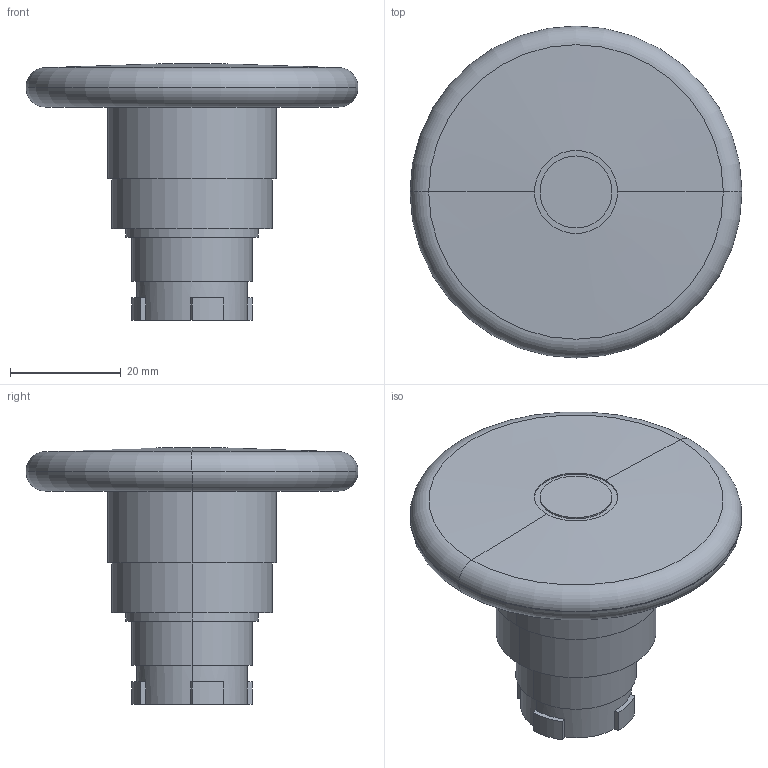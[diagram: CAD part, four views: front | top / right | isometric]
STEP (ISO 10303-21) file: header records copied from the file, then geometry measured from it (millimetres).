
FILE_DESCRIPTION (( 'STEP AP214' ), '1' );
FILE_NAME ('3D 斁麧錪 MTB2-BX4.STEP', '2017-04-25T05:46:07', ( 'adm' ), ( 'MICROSOFT' ), 'SwSTEP 2.0', 'SolidWorks 2011', '' );
FILE_SCHEMA (( 'AUTOMOTIVE_DESIGN' ));
Length unit declared in the file: millimetre
Products named in the file (1): 3D 斁麧錪 MTB2-BX4
Bounding box: 60 x 60 x 46.3 mm (x, y, z)
Volume: 33100.9 mm3; surface area: 12322.5 mm2
Topology: 1 solids, 2 shells, 82 faces, 188 edges, 122 vertices
Faces by surface type: plane 40, cylinder 36, torus 4, cone 2
Entity records: 3276 total; most frequent: DIRECTION 440, CARTESIAN_POINT 393, ORIENTED_EDGE 376, EDGE_CURVE 188, AXIS2_PLACEMENT_3D 169, VERTEX_POINT 122, LINE 102, VECTOR 102
